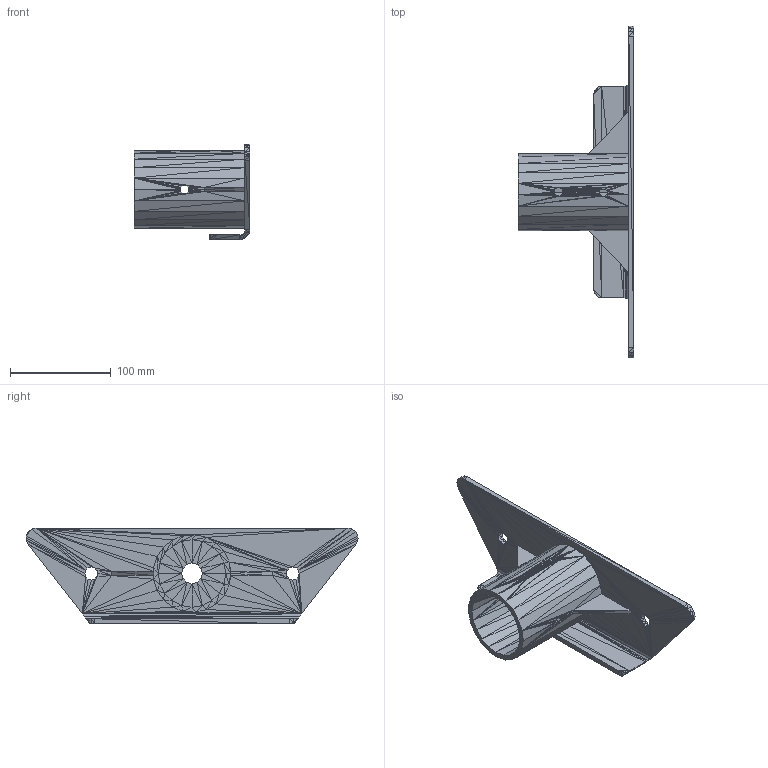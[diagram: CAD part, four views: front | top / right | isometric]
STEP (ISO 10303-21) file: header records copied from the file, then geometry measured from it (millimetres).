
FILE_DESCRIPTION((''),'2;1');
FILE_NAME('063763', '2025-07-31T05:47:04', (''), (''), 'ImageToStl.com STEP Converter','', '');
FILE_SCHEMA(('AUTOMOTIVE_DESIGN_CC2'));
Length unit declared in the file: metre
Products named in the file (1): product0
Bounding box: 115 x 329.63 x 95 mm (x, y, z)
Surface area: 121731.1 mm2 (no closed solid volume)
Topology: 0 solids, 828 shells, 828 faces, 2484 edges, 402 vertices
Faces by surface type: plane 828
Entity records: 19048 total; most frequent: DIRECTION 4142, ORIENTED_EDGE 2484, EDGE_CURVE 2484, LINE 2484, VECTOR 2484, AXIS2_PLACEMENT_3D 829, FACE_SURFACE 828, PLANE 828
